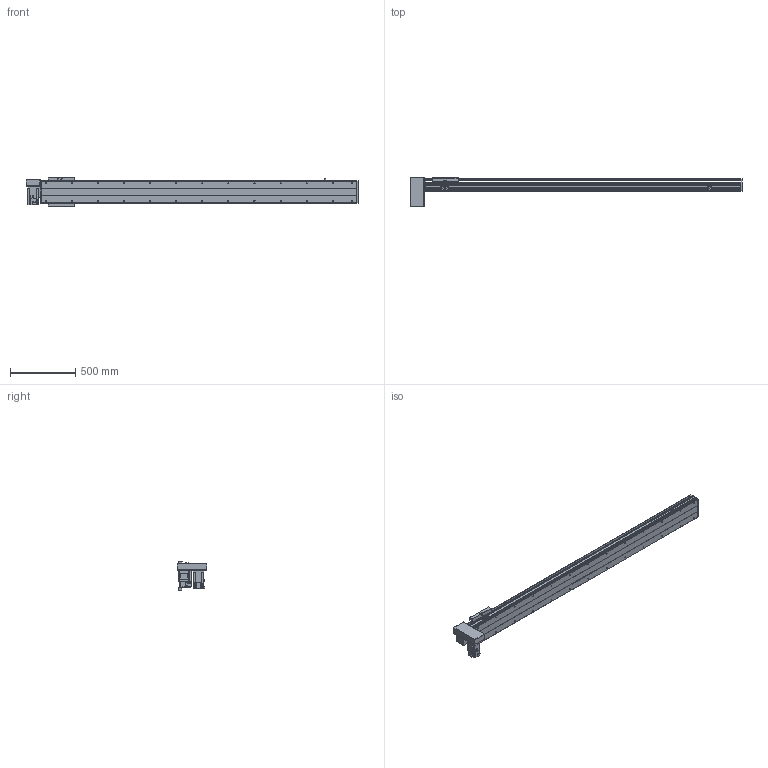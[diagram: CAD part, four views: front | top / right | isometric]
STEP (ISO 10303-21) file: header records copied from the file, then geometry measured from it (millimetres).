
FILE_DESCRIPTION(/* description */ ('STEP AP214'),/* implementation_level */ '2;1');
FILE_NAME(/* name */ 'PBS200-P40-S2050-RD-T75-C1-N(0)',/* time_stamp */ '2022-06-11T09:31:10+02:00',/* author */ ('License CC BY-ND 4.0'),/* organization */ ('CADENAS'),/* preprocessor_version */ 'ST-DEVELOPER v18.102',/* originating_system */ 'PARTsolutions',/* authorisation */ ' ');
FILE_SCHEMA (('AUTOMOTIVE_DESIGN {1 0 10303 214 3 1 1}'));
Length unit declared in the file: millimetre
Products named in the file (7): PBS200-P40-S2050-RD-T75-C1-N(0); PBS200_sensor; PBS200_plant; PBS200_sliser; T75-p1; PBS200T-RD_motors; PBS200-S2050()_body
Assembly tree (8 placements, depth 2):
  PBS200-P40-S2050-RD-T75-C1-N(0)
    PBS200_sensor  x3
    PBS200_plant
    PBS200_sliser
    T75-p1
    PBS200T-RD_motors
    PBS200-S2050()_body
Bounding box: 2550 x 230 x 221 mm (x, y, z)
Volume: 17794055.1 mm3; surface area: 2853236.4 mm2
Topology: 8 solids, 8 shells, 950 faces, 2424 edges, 1578 vertices
Faces by surface type: plane 584, cylinder 308, cone 58
Full cylindrical faces by diameter (mm): 2.459 x6, 3.242 x4, 4.5 x6, 4.917 x4, 5 x6, 6 x7, 6.6 x8, 6.647 x30, 8 x6, 10 x4, 12 x8, 38 x2, 40 x1, 70 x1
Entity records: 25181 total; most frequent: DIRECTION 4447, CARTESIAN_POINT 4282, ORIENTED_EDGE 4042, EDGE_CURVE 2021, AXIS2_PLACEMENT_3D 1567, VERTEX_POINT 1402, LINE 1313, VECTOR 1313
